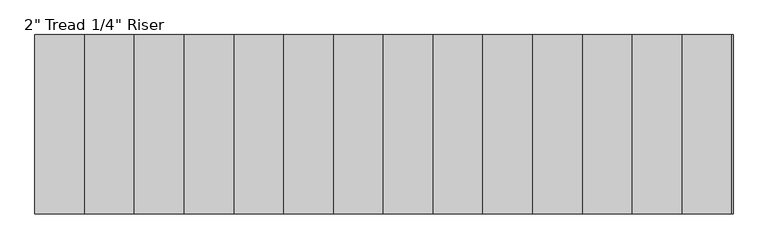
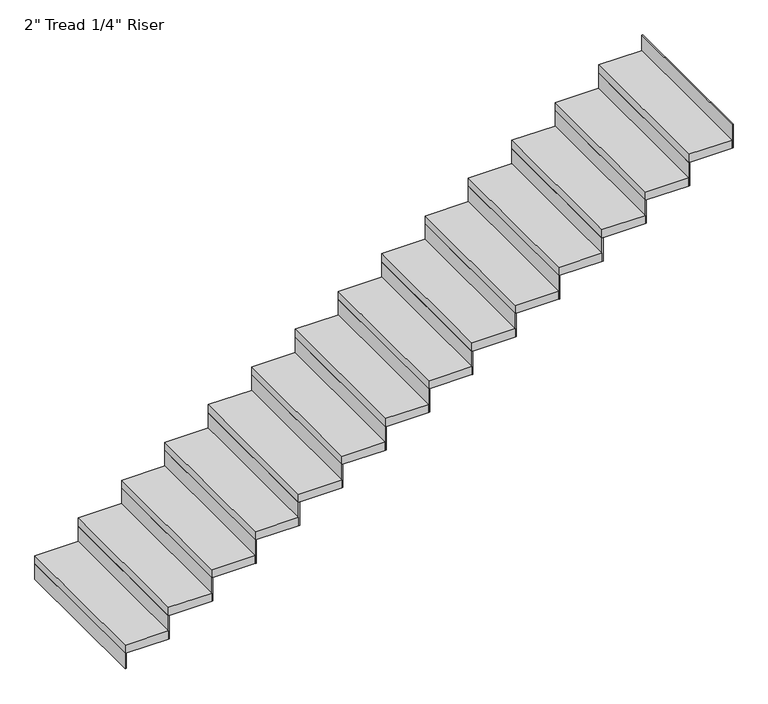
"""IFC4 building model written with IfcOpenShell, lengths in millimetres: stair flight geometry."""

from ifc_helpers import new_model, si_unit, frame, origin, origin_with_axes, place, context, project, spatial, polyline, outline, extrude, source, transform, mapped, element, save


def stair_flight_fb633825(model_context):
    return source(origin(), model_context, "Body", "SweptSolid", [
        extrude(outline(polyline([(108752.5286089, -2400.7855758), (108746.1786089, -2400.7855758), (108746.1786089, -1486.3855758), (108752.5286089, -1486.3855758), (108752.5286089, -2400.7855758)])), origin_with_axes(), (0.0, 0.0, 1.0), 94.3428571),
        extrude(outline(polyline([(109000.1786089, -1486.3855758), (109000.1786089, -2400.7855758), (108746.1786089, -2400.7855758), (108746.1786089, -1486.3855758), (109000.1786089, -1486.3855758)])), frame((0.0, 0.0, 94.3428571), z_axis=(0.0, 0.0, 1.0), x_axis=(1.0, 0.0, 0.0)), (0.0, 0.0, 1.0), 50.8),
        extrude(outline(polyline([(109006.5286089, -2400.7855758), (109000.1786089, -2400.7855758), (109000.1786089, -1486.3855758), (109006.5286089, -1486.3855758), (109006.5286089, -2400.7855758)])), frame((0.0, 0.0, 94.3428571), z_axis=(0.0, 0.0, 1.0), x_axis=(1.0, 0.0, 0.0)), (0.0, 0.0, 1.0), 145.1428571),
        extrude(outline(polyline([(109254.1786089, -1486.3855758), (109254.1786089, -2400.7855758), (109000.1786089, -2400.7855758), (109000.1786089, -1486.3855758), (109254.1786089, -1486.3855758)])), frame((0.0, 0.0, 239.4857143), z_axis=(0.0, 0.0, 1.0), x_axis=(1.0, 0.0, 0.0)), (0.0, 0.0, 1.0), 50.8),
        extrude(outline(polyline([(109260.5286089, -2400.7855758), (109254.1786089, -2400.7855758), (109254.1786089, -1486.3855758), (109260.5286089, -1486.3855758), (109260.5286089, -2400.7855758)])), frame((0.0, 0.0, 239.4857143), z_axis=(0.0, 0.0, 1.0), x_axis=(1.0, 0.0, 0.0)), (0.0, 0.0, 1.0), 145.1428571),
        extrude(outline(polyline([(109508.1786089, -1486.3855758), (109508.1786089, -2400.7855758), (109254.1786089, -2400.7855758), (109254.1786089, -1486.3855758), (109508.1786089, -1486.3855758)])), frame((0.0, 0.0, 384.6285714), z_axis=(0.0, 0.0, 1.0), x_axis=(1.0, 0.0, 0.0)), (0.0, 0.0, 1.0), 50.8),
        extrude(outline(polyline([(109514.5286089, -2400.7855758), (109508.1786089, -2400.7855758), (109508.1786089, -1486.3855758), (109514.5286089, -1486.3855758), (109514.5286089, -2400.7855758)])), frame((0.0, 0.0, 384.6285714), z_axis=(0.0, 0.0, 1.0), x_axis=(1.0, 0.0, 0.0)), (0.0, 0.0, 1.0), 145.1428571),
        extrude(outline(polyline([(109762.1786089, -1486.3855758), (109762.1786089, -2400.7855758), (109508.1786089, -2400.7855758), (109508.1786089, -1486.3855758), (109762.1786089, -1486.3855758)])), frame((0.0, 0.0, 529.7714286), z_axis=(0.0, 0.0, 1.0), x_axis=(1.0, 0.0, 0.0)), (0.0, 0.0, 1.0), 50.8),
        extrude(outline(polyline([(109768.5286089, -2400.7855758), (109762.1786089, -2400.7855758), (109762.1786089, -1486.3855758), (109768.5286089, -1486.3855758), (109768.5286089, -2400.7855758)])), frame((0.0, 0.0, 529.7714286), z_axis=(0.0, 0.0, 1.0), x_axis=(1.0, 0.0, 0.0)), (0.0, 0.0, 1.0), 145.1428571),
        extrude(outline(polyline([(110016.1786089, -1486.3855758), (110016.1786089, -2400.7855758), (109762.1786089, -2400.7855758), (109762.1786089, -1486.3855758), (110016.1786089, -1486.3855758)])), frame((0.0, 0.0, 674.9142857), z_axis=(0.0, 0.0, 1.0), x_axis=(1.0, 0.0, 0.0)), (0.0, 0.0, 1.0), 50.8),
        extrude(outline(polyline([(110022.5286089, -2400.7855758), (110016.1786089, -2400.7855758), (110016.1786089, -1486.3855758), (110022.5286089, -1486.3855758), (110022.5286089, -2400.7855758)])), frame((0.0, 0.0, 674.9142857), z_axis=(0.0, 0.0, 1.0), x_axis=(1.0, 0.0, 0.0)), (0.0, 0.0, 1.0), 145.1428571),
        extrude(outline(polyline([(110270.1786089, -1486.3855758), (110270.1786089, -2400.7855758), (110016.1786089, -2400.7855758), (110016.1786089, -1486.3855758), (110270.1786089, -1486.3855758)])), frame((0.0, 0.0, 820.0571429), z_axis=(0.0, 0.0, 1.0), x_axis=(1.0, 0.0, 0.0)), (0.0, 0.0, 1.0), 50.8),
        extrude(outline(polyline([(110276.5286089, -2400.7855758), (110270.1786089, -2400.7855758), (110270.1786089, -1486.3855758), (110276.5286089, -1486.3855758), (110276.5286089, -2400.7855758)])), frame((0.0, 0.0, 820.0571429), z_axis=(0.0, 0.0, 1.0), x_axis=(1.0, 0.0, 0.0)), (0.0, 0.0, 1.0), 145.1428571),
        extrude(outline(polyline([(110524.1786089, -1486.3855758), (110524.1786089, -2400.7855758), (110270.1786089, -2400.7855758), (110270.1786089, -1486.3855758), (110524.1786089, -1486.3855758)])), frame((0.0, 0.0, 965.2), z_axis=(0.0, 0.0, 1.0), x_axis=(1.0, 0.0, 0.0)), (0.0, 0.0, 1.0), 50.8),
        extrude(outline(polyline([(110530.5286089, -2400.7855758), (110524.1786089, -2400.7855758), (110524.1786089, -1486.3855758), (110530.5286089, -1486.3855758), (110530.5286089, -2400.7855758)])), frame((0.0, 0.0, 965.2), z_axis=(0.0, 0.0, 1.0), x_axis=(1.0, 0.0, 0.0)), (0.0, 0.0, 1.0), 145.1428571),
        extrude(outline(polyline([(110778.1786089, -1486.3855758), (110778.1786089, -2400.7855758), (110524.1786089, -2400.7855758), (110524.1786089, -1486.3855758), (110778.1786089, -1486.3855758)])), frame((0.0, 0.0, 1110.3428571), z_axis=(0.0, 0.0, 1.0), x_axis=(1.0, 0.0, 0.0)), (0.0, 0.0, 1.0), 50.8),
        extrude(outline(polyline([(110784.5286089, -2400.7855758), (110778.1786089, -2400.7855758), (110778.1786089, -1486.3855758), (110784.5286089, -1486.3855758), (110784.5286089, -2400.7855758)])), frame((0.0, 0.0, 1110.3428571), z_axis=(0.0, 0.0, 1.0), x_axis=(1.0, 0.0, 0.0)), (0.0, 0.0, 1.0), 145.1428571),
        extrude(outline(polyline([(111032.1786089, -1486.3855758), (111032.1786089, -2400.7855758), (110778.1786089, -2400.7855758), (110778.1786089, -1486.3855758), (111032.1786089, -1486.3855758)])), frame((0.0, 0.0, 1255.4857143), z_axis=(0.0, 0.0, 1.0), x_axis=(1.0, 0.0, 0.0)), (0.0, 0.0, 1.0), 50.8),
        extrude(outline(polyline([(111038.5286089, -2400.7855758), (111032.1786089, -2400.7855758), (111032.1786089, -1486.3855758), (111038.5286089, -1486.3855758), (111038.5286089, -2400.7855758)])), frame((0.0, 0.0, 1255.4857143), z_axis=(0.0, 0.0, 1.0), x_axis=(1.0, 0.0, 0.0)), (0.0, 0.0, 1.0), 145.1428571),
        extrude(outline(polyline([(111286.1786089, -1486.3855758), (111286.1786089, -2400.7855758), (111032.1786089, -2400.7855758), (111032.1786089, -1486.3855758), (111286.1786089, -1486.3855758)])), frame((0.0, 0.0, 1400.6285714), z_axis=(0.0, 0.0, 1.0), x_axis=(1.0, 0.0, 0.0)), (0.0, 0.0, 1.0), 50.8),
        extrude(outline(polyline([(111292.5286089, -2400.7855758), (111286.1786089, -2400.7855758), (111286.1786089, -1486.3855758), (111292.5286089, -1486.3855758), (111292.5286089, -2400.7855758)])), frame((0.0, 0.0, 1400.6285714), z_axis=(0.0, 0.0, 1.0), x_axis=(1.0, 0.0, 0.0)), (0.0, 0.0, 1.0), 145.1428571),
        extrude(outline(polyline([(111540.1786089, -1486.3855758), (111540.1786089, -2400.7855758), (111286.1786089, -2400.7855758), (111286.1786089, -1486.3855758), (111540.1786089, -1486.3855758)])), frame((0.0, 0.0, 1545.7714286), z_axis=(0.0, 0.0, 1.0), x_axis=(1.0, 0.0, 0.0)), (0.0, 0.0, 1.0), 50.8),
        extrude(outline(polyline([(111546.5286089, -2400.7855758), (111540.1786089, -2400.7855758), (111540.1786089, -1486.3855758), (111546.5286089, -1486.3855758), (111546.5286089, -2400.7855758)])), frame((0.0, 0.0, 1545.7714286), z_axis=(0.0, 0.0, 1.0), x_axis=(1.0, 0.0, 0.0)), (0.0, 0.0, 1.0), 145.1428571),
        extrude(outline(polyline([(111794.1786089, -1486.3855758), (111794.1786089, -2400.7855758), (111540.1786089, -2400.7855758), (111540.1786089, -1486.3855758), (111794.1786089, -1486.3855758)])), frame((0.0, 0.0, 1690.9142857), z_axis=(0.0, 0.0, 1.0), x_axis=(1.0, 0.0, 0.0)), (0.0, 0.0, 1.0), 50.8),
        extrude(outline(polyline([(111800.5286089, -2400.7855758), (111794.1786089, -2400.7855758), (111794.1786089, -1486.3855758), (111800.5286089, -1486.3855758), (111800.5286089, -2400.7855758)])), frame((0.0, 0.0, 1690.9142857), z_axis=(0.0, 0.0, 1.0), x_axis=(1.0, 0.0, 0.0)), (0.0, 0.0, 1.0), 145.1428571),
        extrude(outline(polyline([(112048.1786089, -1486.3855758), (112048.1786089, -2400.7855758), (111794.1786089, -2400.7855758), (111794.1786089, -1486.3855758), (112048.1786089, -1486.3855758)])), frame((0.0, 0.0, 1836.0571429), z_axis=(0.0, 0.0, 1.0), x_axis=(1.0, 0.0, 0.0)), (0.0, 0.0, 1.0), 50.8),
        extrude(outline(polyline([(112054.5286089, -2400.7855758), (112048.1786089, -2400.7855758), (112048.1786089, -1486.3855758), (112054.5286089, -1486.3855758), (112054.5286089, -2400.7855758)])), frame((0.0, 0.0, 1836.0571429), z_axis=(0.0, 0.0, 1.0), x_axis=(1.0, 0.0, 0.0)), (0.0, 0.0, 1.0), 145.1428571),
        extrude(outline(polyline([(112308.5286089, -2400.7855758), (112302.1786089, -2400.7855758), (112302.1786089, -1486.3855758), (112308.5286089, -1486.3855758), (112308.5286089, -2400.7855758)])), frame((0.0, 0.0, 1981.2), z_axis=(0.0, 0.0, 1.0), x_axis=(1.0, 0.0, 0.0)), (0.0, 0.0, 1.0), 145.1428571),
        extrude(outline(polyline([(112302.1786089, -1486.3855758), (112302.1786089, -2400.7855758), (112048.1786089, -2400.7855758), (112048.1786089, -1486.3855758), (112302.1786089, -1486.3855758)])), frame((0.0, 0.0, 1981.2), z_axis=(0.0, 0.0, 1.0), x_axis=(1.0, 0.0, 0.0)), (0.0, 0.0, 1.0), 50.8),
    ])


if __name__ == "__main__":
    model = new_model("IFC4")
    model_context = context("Model", 3, world=origin())
    ifc_project = project(units=[si_unit("LENGTHUNIT", "METRE", prefix="MILLI")], contexts=[model_context])
    site = spatial("IfcSite", under=ifc_project)
    building = spatial("IfcBuilding", under=site)
    placement = place(None, origin())
    stair_flight_shape = stair_flight_fb633825(model_context)
    element("IfcStairFlight", 1, ObjectType="2\" Tread 1/4\" Riser", at=placement, inside=building, context=model_context, shape_type="MappedRepresentation", body=[
        mapped(stair_flight_shape, transform((0.0, 0.0, 0.0), x_axis=(1.0, 0.0, 0.0), y_axis=(0.0, 1.0, 0.0), z_axis=(0.0, 0.0, 1.0))),
    ])
    save(model, "model.ifc")
